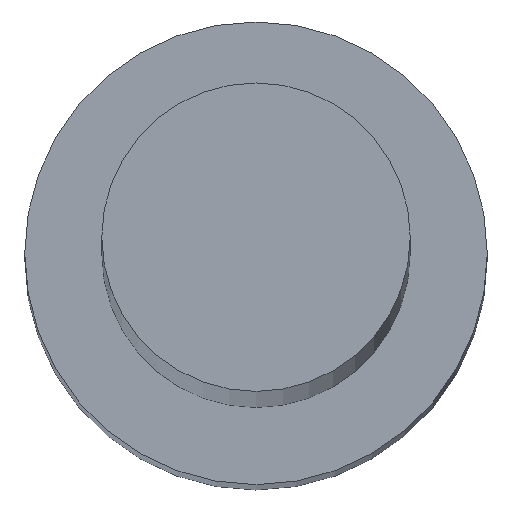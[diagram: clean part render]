
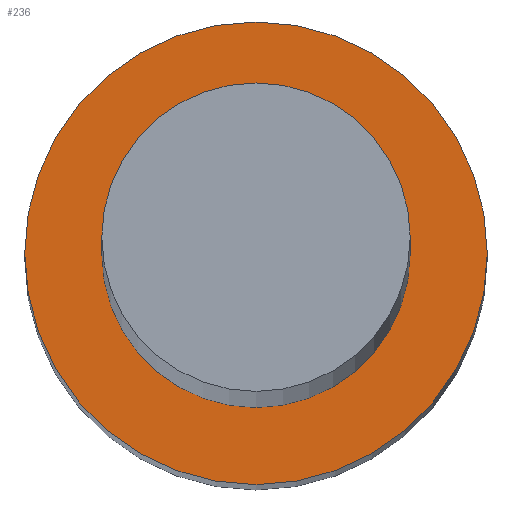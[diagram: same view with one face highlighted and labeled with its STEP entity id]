
A CAD part, top view. The second image highlights one B-rep face of the part: STEP entity #236.
In plain terms, the highlighted planar face has unit normal (0, 0, 1).
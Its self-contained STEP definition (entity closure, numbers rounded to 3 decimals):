
#7 = CARTESIAN_POINT ( 'NONE',  ( 0., 0., 10. ) ) ;
#18 = CARTESIAN_POINT ( 'NONE',  ( -0.75, 0., 10. ) ) ;
#27 = CARTESIAN_POINT ( 'NONE',  ( 0.75, 0., 10. ) ) ;
#50 = EDGE_CURVE ( 'NONE', #796, #720, #550, .T. ) ;
#60 = ORIENTED_EDGE ( 'NONE', *, *, #674, .F. ) ;
#63 = DIRECTION ( 'NONE',  ( 1., 0., 0. ) ) ;
#64 = AXIS2_PLACEMENT_3D ( 'NONE', #7, #70, #63 ) ;
#70 = DIRECTION ( 'NONE',  ( 0., 0., 1. ) ) ;
#122 = EDGE_CURVE ( 'NONE', #571, #854, #386, .T. ) ;
#123 = FACE_BOUND ( 'NONE', #535, .T. ) ;
#130 = CIRCLE ( 'NONE', #656, 0.75 ) ;
#145 = DIRECTION ( 'NONE',  ( 1., 0., 0. ) ) ;
#154 = CARTESIAN_POINT ( 'NONE',  ( -0.5, 0., 10. ) ) ;
#171 = AXIS2_PLACEMENT_3D ( 'NONE', #264, #607, #518 ) ;
#209 = FACE_OUTER_BOUND ( 'NONE', #609, .T. ) ;
#232 = ORIENTED_EDGE ( 'NONE', *, *, #122, .T. ) ;
#236 = ADVANCED_FACE ( 'NONE', ( #123, #209 ), #809, .T. ) ;
#264 = CARTESIAN_POINT ( 'NONE',  ( 0., 0., 10. ) ) ;
#318 = ORIENTED_EDGE ( 'NONE', *, *, #50, .F. ) ;
#335 = ORIENTED_EDGE ( 'NONE', *, *, #401, .T. ) ;
#355 = CARTESIAN_POINT ( 'NONE',  ( 0.5, 0., 10. ) ) ;
#386 = CIRCLE ( 'NONE', #64, 0.75 ) ;
#401 = EDGE_CURVE ( 'NONE', #854, #571, #130, .T. ) ;
#510 = AXIS2_PLACEMENT_3D ( 'NONE', #871, #754, #145 ) ;
#518 = DIRECTION ( 'NONE',  ( 1., 0., 0. ) ) ;
#535 = EDGE_LOOP ( 'NONE', ( #60, #318 ) ) ;
#550 = CIRCLE ( 'NONE', #171, 0.5 ) ;
#571 = VERTEX_POINT ( 'NONE', #18 ) ;
#577 = DIRECTION ( 'NONE',  ( 0., 0., 1. ) ) ;
#607 = DIRECTION ( 'NONE',  ( 0., 0., 1. ) ) ;
#609 = EDGE_LOOP ( 'NONE', ( #232, #335 ) ) ;
#656 = AXIS2_PLACEMENT_3D ( 'NONE', #723, #577, #711 ) ;
#674 = EDGE_CURVE ( 'NONE', #720, #796, #841, .T. ) ;
#688 = DIRECTION ( 'NONE',  ( 0., 0., 1. ) ) ;
#711 = DIRECTION ( 'NONE',  ( 1., 0., 0. ) ) ;
#720 = VERTEX_POINT ( 'NONE', #154 ) ;
#723 = CARTESIAN_POINT ( 'NONE',  ( 0., 0., 10. ) ) ;
#754 = DIRECTION ( 'NONE',  ( 0., 0., 1. ) ) ;
#756 = CARTESIAN_POINT ( 'NONE',  ( 0., 0., 10. ) ) ;
#796 = VERTEX_POINT ( 'NONE', #355 ) ;
#799 = AXIS2_PLACEMENT_3D ( 'NONE', #756, #688, #826 ) ;
#809 = PLANE ( 'NONE',  #510 ) ;
#826 = DIRECTION ( 'NONE',  ( 1., 0., 0. ) ) ;
#841 = CIRCLE ( 'NONE', #799, 0.5 ) ;
#854 = VERTEX_POINT ( 'NONE', #27 ) ;
#871 = CARTESIAN_POINT ( 'NONE',  ( 0., 0., 10. ) ) ;
